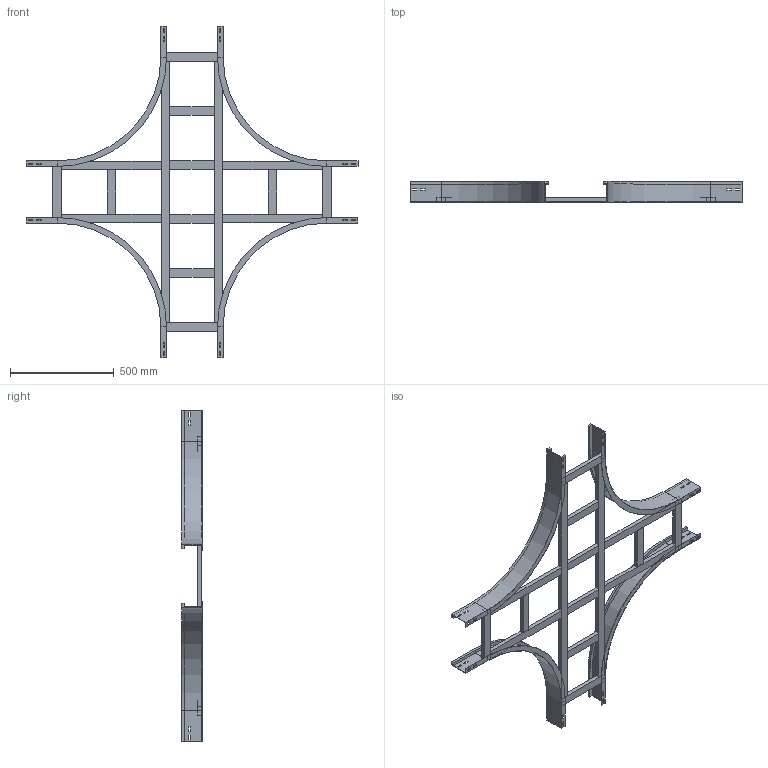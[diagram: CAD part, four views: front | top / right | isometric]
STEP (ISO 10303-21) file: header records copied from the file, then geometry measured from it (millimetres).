
FILE_DESCRIPTION (( 'STEP AP214' ), '1' );
FILE_NAME ('17B5D300.step', '2025-02-21T15:54:13', ( '' ), ( '' ), 'SwSTEP 2.0', 'SolidWorks 2023', '' );
FILE_SCHEMA (( 'AUTOMOTIVE_DESIGN' ));
Length unit declared in the file: millimetre
Products named in the file (7): TRAVERSINO_INTERMEDIO_R500+300; LONGH.INTERNO 90°_H100_R500; 17B5D300; TRAVERSINO_VERT_R500; TRAVERSINO_COPPIA_300; TRAVERSINO_300; TRAVERSINO_LONG._R500+300
Assembly tree (20 placements, depth 2):
  17B5D300
    LONGH.INTERNO 90°_H100_R500  x4
    TRAVERSINO_300  x4
    TRAVERSINO_LONG._R500+300  x2
    TRAVERSINO_INTERMEDIO_R500+300  x4
    TRAVERSINO_VERT_R500  x4
    TRAVERSINO_COPPIA_300  x2
Bounding box: 1600 x 100 x 1600 mm (x, y, z)
Volume: 7532203.6 mm3; surface area: 2111695.7 mm2
Topology: 20 solids, 20 shells, 328 faces, 800 edges, 512 vertices
Faces by surface type: plane 312, cylinder 16
Entity records: 2860 total; most frequent: CARTESIAN_POINT 459, DIRECTION 442, ORIENTED_EDGE 424, EDGE_CURVE 212, LINE 204, VECTOR 204, VERTEX_POINT 136, AXIS2_PLACEMENT_3D 119
